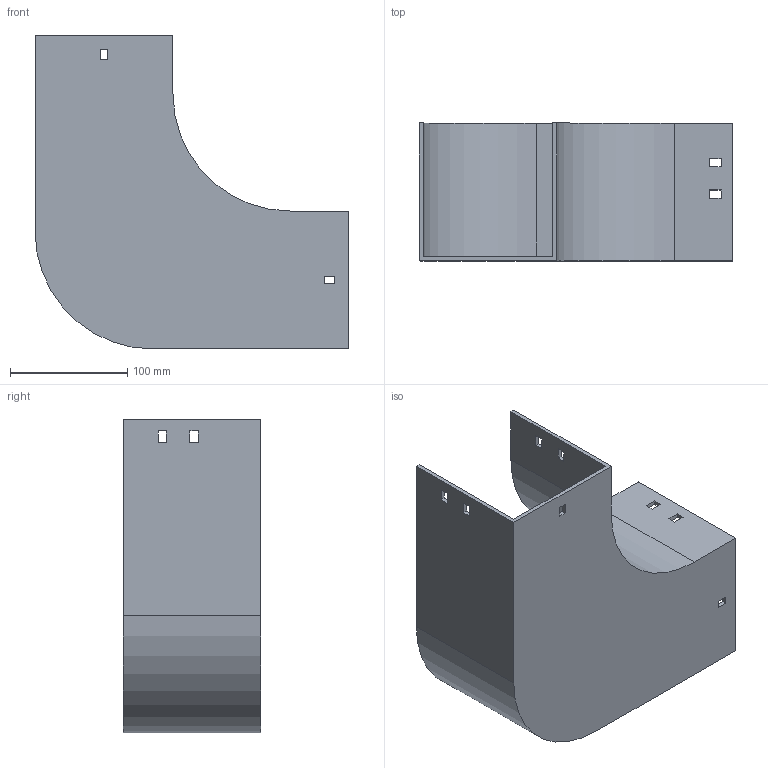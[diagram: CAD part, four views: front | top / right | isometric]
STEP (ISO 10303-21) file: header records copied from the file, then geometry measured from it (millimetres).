
FILE_DESCRIPTION (( 'STEP AP214' ), '1' );
FILE_NAME ('10B1J117.step', '2025-02-21T09:39:54', ( '' ), ( '' ), 'SwSTEP 2.0', 'SolidWorks 2023', '' );
FILE_SCHEMA (( 'AUTOMOTIVE_DESIGN' ));
Length unit declared in the file: millimetre
Products named in the file (1): 10B1J117
Bounding box: 267.5 x 117.5 x 267.5 mm (x, y, z)
Volume: 468241.9 mm3; surface area: 273776.4 mm2
Topology: 1 solids, 1 shells, 58 faces, 168 edges, 112 vertices
Faces by surface type: plane 54, cylinder 4
Entity records: 1943 total; most frequent: CARTESIAN_POINT 339, ORIENTED_EDGE 336, DIRECTION 294, EDGE_CURVE 168, LINE 160, VECTOR 160, VERTEX_POINT 112, EDGE_LOOP 78
